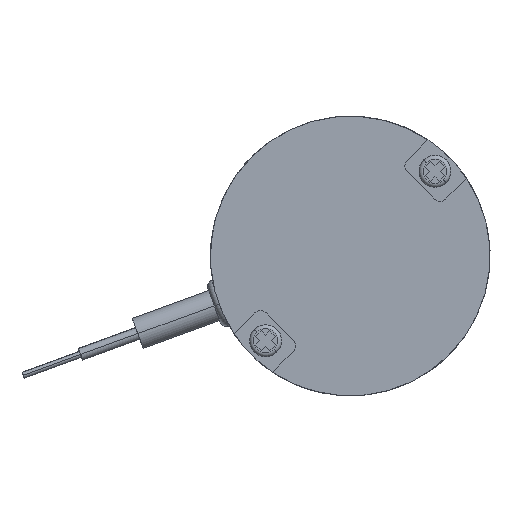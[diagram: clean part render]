
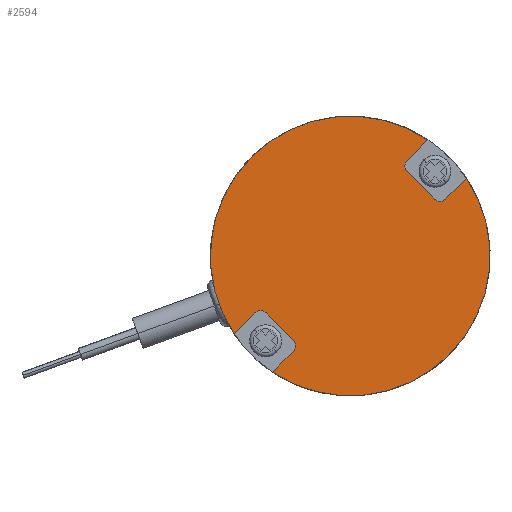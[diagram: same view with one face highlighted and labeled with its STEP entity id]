
A CAD part, left-side view. The second image highlights one B-rep face of the part: STEP entity #2594.
In plain terms, the highlighted planar face has unit normal (-1, 0, 0).
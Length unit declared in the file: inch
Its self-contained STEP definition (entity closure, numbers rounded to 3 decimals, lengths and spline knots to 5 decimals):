
#23 = CARTESIAN_POINT ( 'NONE',  ( 0., 0.2802, -0.41382 ) ) ;
#87 = EDGE_CURVE ( 'NONE', #6506, #1821, #7287, .T. ) ;
#191 = VERTEX_POINT ( 'NONE', #1201 ) ;
#202 = AXIS2_PLACEMENT_3D ( 'NONE', #1618, #2344, #5049 ) ;
#227 = ORIENTED_EDGE ( 'NONE', *, *, #1937, .F. ) ;
#283 = CARTESIAN_POINT ( 'NONE',  ( 0., -0.30804, 0.44166 ) ) ;
#430 = ORIENTED_EDGE ( 'NONE', *, *, #7473, .F. ) ;
#432 = LINE ( 'NONE', #9031, #7680 ) ;
#536 = LINE ( 'NONE', #3686, #4277 ) ;
#606 = PLANE ( 'NONE',  #8065 ) ;
#699 = ORIENTED_EDGE ( 'NONE', *, *, #87, .F. ) ;
#926 = VERTEX_POINT ( 'NONE', #23 ) ;
#938 = EDGE_LOOP ( 'NONE', ( #9041, #4449, #430, #6874, #5919, #5465, #3496, #4112, #227, #1652, #699, #4890, #6140, #1257 ) ) ;
#1113 = CIRCLE ( 'NONE', #2511, 0.03937 ) ;
#1123 = CARTESIAN_POINT ( 'NONE',  ( 0., 0.57156, -0.38225 ) ) ;
#1201 = CARTESIAN_POINT ( 'NONE',  ( 0., -0.38225, 0.57156 ) ) ;
#1257 = ORIENTED_EDGE ( 'NONE', *, *, #8536, .F. ) ;
#1422 = CIRCLE ( 'NONE', #3543, 0.03937 ) ;
#1430 = EDGE_CURVE ( 'NONE', #3910, #926, #1422, .T. ) ;
#1469 = VERTEX_POINT ( 'NONE', #4132 ) ;
#1618 = CARTESIAN_POINT ( 'NONE',  ( 0., -0.44166, 0.30804 ) ) ;
#1647 = VECTOR ( 'NONE', #8944, 39.37008 ) ;
#1652 = ORIENTED_EDGE ( 'NONE', *, *, #6893, .F. ) ;
#1662 = EDGE_CURVE ( 'NONE', #3222, #2260, #536, .T. ) ;
#1679 = DIRECTION ( 'NONE',  ( 0., -0.707, -0.707 ) ) ;
#1700 = CARTESIAN_POINT ( 'NONE',  ( 0., 0.4695, -0.2802 ) ) ;
#1731 = LINE ( 'NONE', #6903, #4475 ) ;
#1735 = CIRCLE ( 'NONE', #6953, 0.03937 ) ;
#1821 = VERTEX_POINT ( 'NONE', #6786 ) ;
#1926 = CARTESIAN_POINT ( 'NONE',  ( 0., 0.44166, -0.30804 ) ) ;
#1937 = EDGE_CURVE ( 'NONE', #4056, #3910, #432, .T. ) ;
#2106 = CIRCLE ( 'NONE', #6906, 0.6876 ) ;
#2126 = EDGE_CURVE ( 'NONE', #7736, #8091, #1735, .T. ) ;
#2248 = DIRECTION ( 'NONE',  ( 0., 0.707, -0.707 ) ) ;
#2260 = VERTEX_POINT ( 'NONE', #1123 ) ;
#2297 = EDGE_CURVE ( 'NONE', #4129, #8247, #2523, .T. ) ;
#2344 = DIRECTION ( 'NONE',  ( -1., 0., 0. ) ) ;
#2368 = EDGE_CURVE ( 'NONE', #191, #7736, #6347, .T. ) ;
#2393 = CARTESIAN_POINT ( 'NONE',  ( 0., -0.2802, 0.4695 ) ) ;
#2511 = AXIS2_PLACEMENT_3D ( 'NONE', #1926, #7577, #4782 ) ;
#2523 = CIRCLE ( 'NONE', #202, 0.03937 ) ;
#2594 = ADVANCED_FACE ( 'NONE', ( #3032 ), #606, .F. ) ;
#2986 = CARTESIAN_POINT ( 'NONE',  ( 0., -0.4695, 0.2802 ) ) ;
#3032 = FACE_OUTER_BOUND ( 'NONE', #938, .T. ) ;
#3222 = VERTEX_POINT ( 'NONE', #1700 ) ;
#3259 = DIRECTION ( 'NONE',  ( 1., 0., 0. ) ) ;
#3459 = DIRECTION ( 'NONE',  ( 0., -0.707, -0.707 ) ) ;
#3496 = ORIENTED_EDGE ( 'NONE', *, *, #4374, .F. ) ;
#3543 = AXIS2_PLACEMENT_3D ( 'NONE', #4718, #6197, #5452 ) ;
#3582 = DIRECTION ( 'NONE',  ( 0., 0.707, 0.707 ) ) ;
#3686 = CARTESIAN_POINT ( 'NONE',  ( 0., 0.4695, -0.2802 ) ) ;
#3783 = CARTESIAN_POINT ( 'NONE',  ( 0., -0.2802, 0.4695 ) ) ;
#3816 = DIRECTION ( 'NONE',  ( 1., 0., 0. ) ) ;
#3910 = VERTEX_POINT ( 'NONE', #6001 ) ;
#3978 = DIRECTION ( 'NONE',  ( 0., -0.707, -0.707 ) ) ;
#4056 = VERTEX_POINT ( 'NONE', #6295 ) ;
#4112 = ORIENTED_EDGE ( 'NONE', *, *, #1430, .F. ) ;
#4129 = VERTEX_POINT ( 'NONE', #7970 ) ;
#4132 = CARTESIAN_POINT ( 'NONE',  ( 0., 0.48621, 0.48621 ) ) ;
#4277 = VECTOR ( 'NONE', #2248, 39.37008 ) ;
#4374 = EDGE_CURVE ( 'NONE', #926, #7999, #6301, .T. ) ;
#4449 = ORIENTED_EDGE ( 'NONE', *, *, #2368, .F. ) ;
#4475 = VECTOR ( 'NONE', #5748, 39.37008 ) ;
#4608 = AXIS2_PLACEMENT_3D ( 'NONE', #5272, #5306, #4642 ) ;
#4642 = DIRECTION ( 'NONE',  ( 0., -0.707, -0.707 ) ) ;
#4718 = CARTESIAN_POINT ( 'NONE',  ( 0., 0.30804, -0.44166 ) ) ;
#4782 = DIRECTION ( 'NONE',  ( 0., 0.707, 0.707 ) ) ;
#4819 = DIRECTION ( 'NONE',  ( 0., -0.707, -0.707 ) ) ;
#4890 = ORIENTED_EDGE ( 'NONE', *, *, #6293, .F. ) ;
#5049 = DIRECTION ( 'NONE',  ( 0., 0.707, 0.707 ) ) ;
#5272 = CARTESIAN_POINT ( 'NONE',  ( 0., 0., 0. ) ) ;
#5306 = DIRECTION ( 'NONE',  ( 1., 0., 0. ) ) ;
#5444 = CARTESIAN_POINT ( 'NONE',  ( 0., 0., 0. ) ) ;
#5452 = DIRECTION ( 'NONE',  ( 0., -0.707, -0.707 ) ) ;
#5465 = ORIENTED_EDGE ( 'NONE', *, *, #8080, .F. ) ;
#5619 = DIRECTION ( 'NONE',  ( 1., 0., 0. ) ) ;
#5748 = DIRECTION ( 'NONE',  ( 0., -0.707, 0.707 ) ) ;
#5919 = ORIENTED_EDGE ( 'NONE', *, *, #1662, .F. ) ;
#6001 = CARTESIAN_POINT ( 'NONE',  ( 0., 0.2802, -0.4695 ) ) ;
#6140 = ORIENTED_EDGE ( 'NONE', *, *, #2297, .F. ) ;
#6144 = CARTESIAN_POINT ( 'NONE',  ( 0., -0.2802, 0.41382 ) ) ;
#6161 = DIRECTION ( 'NONE',  ( 0., -0.707, 0.707 ) ) ;
#6197 = DIRECTION ( 'NONE',  ( -1., 0., 0. ) ) ;
#6226 = AXIS2_PLACEMENT_3D ( 'NONE', #8076, #3816, #7272 ) ;
#6293 = EDGE_CURVE ( 'NONE', #8247, #6506, #1731, .T. ) ;
#6294 = CARTESIAN_POINT ( 'NONE',  ( 0., 0., 0. ) ) ;
#6295 = CARTESIAN_POINT ( 'NONE',  ( 0., 0.38225, -0.57156 ) ) ;
#6301 = LINE ( 'NONE', #6406, #6631 ) ;
#6347 = LINE ( 'NONE', #3783, #7986 ) ;
#6406 = CARTESIAN_POINT ( 'NONE',  ( 0., 0.41382, -0.2802 ) ) ;
#6506 = VERTEX_POINT ( 'NONE', #7201 ) ;
#6631 = VECTOR ( 'NONE', #3582, 39.37008 ) ;
#6786 = CARTESIAN_POINT ( 'NONE',  ( 0., -0.48621, -0.48621 ) ) ;
#6874 = ORIENTED_EDGE ( 'NONE', *, *, #8063, .F. ) ;
#6893 = EDGE_CURVE ( 'NONE', #1821, #4056, #8893, .T. ) ;
#6903 = CARTESIAN_POINT ( 'NONE',  ( 0., -0.4695, 0.2802 ) ) ;
#6906 = AXIS2_PLACEMENT_3D ( 'NONE', #8264, #6958, #3459 ) ;
#6953 = AXIS2_PLACEMENT_3D ( 'NONE', #283, #8002, #1679 ) ;
#6958 = DIRECTION ( 'NONE',  ( 1., 0., 0. ) ) ;
#7033 = LINE ( 'NONE', #7566, #1647 ) ;
#7201 = CARTESIAN_POINT ( 'NONE',  ( 0., -0.57156, 0.38225 ) ) ;
#7272 = DIRECTION ( 'NONE',  ( 0., -0.707, -0.707 ) ) ;
#7287 = CIRCLE ( 'NONE', #6226, 0.6876 ) ;
#7473 = EDGE_CURVE ( 'NONE', #1469, #191, #8757, .T. ) ;
#7566 = CARTESIAN_POINT ( 'NONE',  ( 0., -0.2802, 0.41382 ) ) ;
#7577 = DIRECTION ( 'NONE',  ( -1., 0., 0. ) ) ;
#7680 = VECTOR ( 'NONE', #6161, 39.37008 ) ;
#7736 = VERTEX_POINT ( 'NONE', #2393 ) ;
#7970 = CARTESIAN_POINT ( 'NONE',  ( 0., -0.41382, 0.2802 ) ) ;
#7986 = VECTOR ( 'NONE', #8831, 39.37008 ) ;
#7999 = VERTEX_POINT ( 'NONE', #8356 ) ;
#8002 = DIRECTION ( 'NONE',  ( -1., 0., 0. ) ) ;
#8063 = EDGE_CURVE ( 'NONE', #2260, #1469, #2106, .T. ) ;
#8065 = AXIS2_PLACEMENT_3D ( 'NONE', #6294, #5619, #4819 ) ;
#8076 = CARTESIAN_POINT ( 'NONE',  ( 0., 0., 0. ) ) ;
#8080 = EDGE_CURVE ( 'NONE', #7999, #3222, #1113, .T. ) ;
#8091 = VERTEX_POINT ( 'NONE', #6144 ) ;
#8247 = VERTEX_POINT ( 'NONE', #2986 ) ;
#8264 = CARTESIAN_POINT ( 'NONE',  ( 0., 0., 0. ) ) ;
#8356 = CARTESIAN_POINT ( 'NONE',  ( 0., 0.41382, -0.2802 ) ) ;
#8429 = AXIS2_PLACEMENT_3D ( 'NONE', #5444, #3259, #3978 ) ;
#8536 = EDGE_CURVE ( 'NONE', #8091, #4129, #7033, .T. ) ;
#8757 = CIRCLE ( 'NONE', #4608, 0.6876 ) ;
#8831 = DIRECTION ( 'NONE',  ( 0., 0.707, -0.707 ) ) ;
#8893 = CIRCLE ( 'NONE', #8429, 0.6876 ) ;
#8944 = DIRECTION ( 'NONE',  ( 0., -0.707, -0.707 ) ) ;
#9031 = CARTESIAN_POINT ( 'NONE',  ( 0., 0.2802, -0.4695 ) ) ;
#9041 = ORIENTED_EDGE ( 'NONE', *, *, #2126, .F. ) ;
